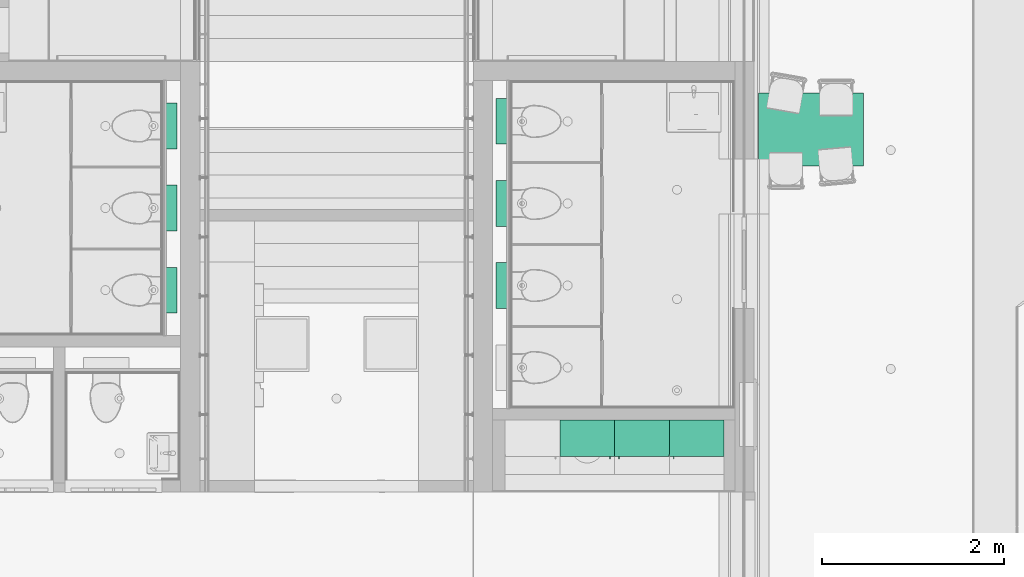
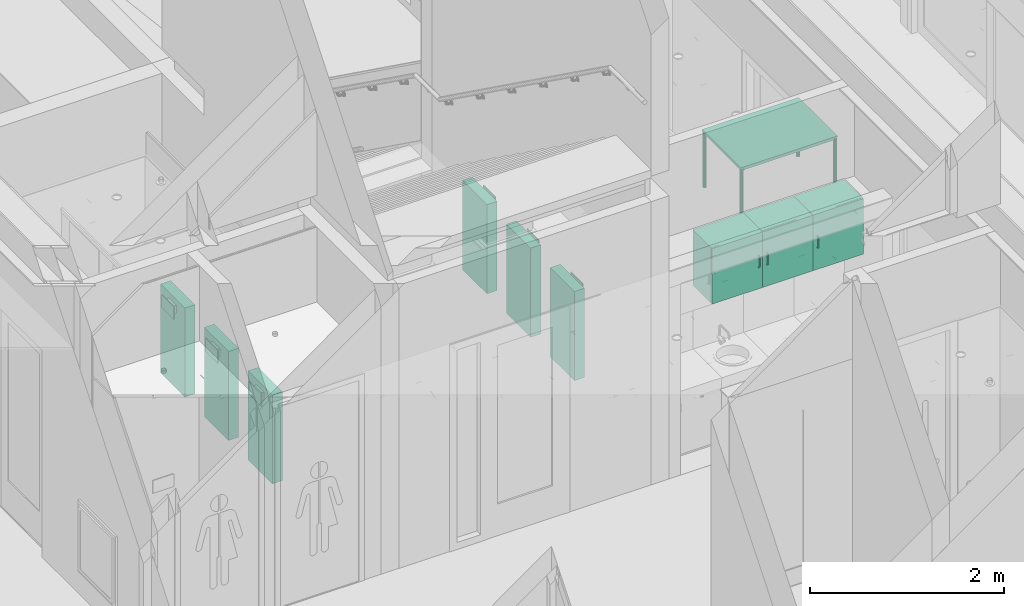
# One storey, part 180 of 347: 6 flow terminals, 4 distribution elements.
"""IFC2X3 building model written with IfcOpenShell, lengths in millimetres."""

from ifc_helpers import new_model, entity, si_unit, converted_unit, derived_unit, money_unit, direction, frame, origin_with_axes, place, context, subcontext, project, spatial, open_shell, faceted_brep, surface_model, source, transform, mapped, type_object, type_shapes, element, save


model = new_model("IFC2X3")

# Units and contexts
model_context = context("Model", 3, precision=0.01, world=origin_with_axes(), true_north=direction((0.0, 1.0)))
plan_context = context("Plan", 3, precision=0.01, world=origin_with_axes(), true_north=direction((0.0, 1.0)))
body_context = subcontext(model_context, "Body", "Model", "MODEL_VIEW")
ifc_project = project(units=[si_unit("LENGTHUNIT", "METRE", prefix="MILLI"), si_unit("AREAUNIT", "SQUARE_METRE"), si_unit("VOLUMEUNIT", "CUBIC_METRE"), converted_unit("PLANEANGLEUNIT", "DEGREE", entity("IfcPlaneAngleMeasure", 0.0174532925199), si_unit("PLANEANGLEUNIT", "RADIAN"), dimensions=[0, 0, 0, 0, 0, 0, 0]), money_unit("EUR"), converted_unit("TIMEUNIT", "Year", entity("IfcTimeMeasure", 31556926.0), si_unit("TIMEUNIT", "SECOND"), dimensions=[0, 0, 1, 0, 0, 0, 0]), si_unit("MASSUNIT", "GRAM", prefix="KILO"), si_unit("THERMODYNAMICTEMPERATUREUNIT", "DEGREE_CELSIUS"), si_unit("LUMINOUSINTENSITYUNIT", "LUMEN"), si_unit("ENERGYUNIT", "JOULE", prefix="MEGA"), derived_unit("THERMALCONDUCTANCEUNIT", [(si_unit("POWERUNIT", "WATT"), 1), (si_unit("LENGTHUNIT", "METRE"), -1), (si_unit("THERMODYNAMICTEMPERATUREUNIT", "KELVIN"), -1)]), derived_unit("SPECIFICHEATCAPACITYUNIT", [(si_unit("ENERGYUNIT", "JOULE"), 1), (si_unit("MASSUNIT", "GRAM", prefix="KILO"), -1), (si_unit("THERMODYNAMICTEMPERATUREUNIT", "KELVIN"), -1)]), derived_unit("MASSDENSITYUNIT", [(si_unit("MASSUNIT", "GRAM", prefix="KILO"), 1), (si_unit("VOLUMEUNIT", "CUBIC_METRE"), -1)])], contexts=[model_context, plan_context])

# Site, building, storey
site_placement = place(None, origin_with_axes())
site = spatial("IfcSite", under=ifc_project, at=site_placement, Name="Site", CompositionType="ELEMENT")
building_placement = place(site_placement, origin_with_axes())
building = spatial("IfcBuilding", under=site, at=building_placement, Name="Naam gebouw", CompositionType="ELEMENT")
storey_placement = place(building_placement, origin_with_axes())
storey = spatial("IfcBuildingStorey", under=building, at=storey_placement, Name="begane grond", CompositionType="ELEMENT", Elevation=0.0)

# Flow terminals
sanitary_terminal_type = type_object("IfcSanitaryTerminalType", Name="Inbouwreservoir 25 KM", PredefinedType="CISTERN")
shared_shape_1 = source(origin_with_axes(), body_context, "Body", "SurfaceModel", [
    faceted_brep([(0.0, 0.0, 0.0), (500.0, 0.0, 0.0), (500.0, 0.0, 1120.0), (0.0, 0.0, 1120.0), (0.0, 120.0, 0.0), (500.0, 120.0, 0.0), (500.0, 120.0, 1120.0), (0.0, 120.0, 1120.0)], [[[0, 1, 2, 3]], [[0, 4, 5, 1]], [[1, 5, 6, 2]], [[3, 2, 6, 7]], [[4, 0, 3, 7]], [[5, 4, 7, 6]]]),
    surface_model("IfcShellBasedSurfaceModel", [(1.0, 0.0, 0.0), (499.0, 0.0, 0.0), (499.0, 120.0, 1120.0), (1.0, 120.0, 1120.0)], [open_shell([[[0, 1, 2, 3]]])]),
    surface_model("IfcShellBasedSurfaceModel", [(1.0, 0.0, 1120.0), (499.0, 0.0, 1120.0), (499.0, 120.0, 0.0), (1.0, 120.0, 0.0)], [open_shell([[[0, 1, 2, 3]]])]),
    faceted_brep([(375.0, -60.0, 920.0), (125.0, -60.0, 920.0), (125.0, -50.0, 920.0), (375.0, -50.0, 920.0), (375.0, -60.0, 1080.0), (125.0, -60.0, 1080.0), (125.0, -50.0, 1080.0), (375.0, -50.0, 1080.0)], [[[0, 1, 2, 3]], [[1, 0, 4, 5]], [[2, 1, 5, 6]], [[3, 2, 6, 7]], [[0, 3, 7, 4]], [[5, 4, 7, 6]]]),
    faceted_brep([(325.0, 0.0, 950.0), (175.0, 0.0, 950.0), (175.0, 0.0, 1050.0), (325.0, 0.0, 1050.0), (325.0, -50.0, 950.0), (175.0, -50.0, 950.0), (175.0, -50.0, 1050.0), (325.0, -50.0, 1050.0)], [[[0, 1, 2, 3]], [[1, 0, 4, 5]], [[2, 1, 5, 6]], [[3, 2, 6, 7]], [[0, 3, 7, 4]], [[5, 4, 7, 6]]]),
    surface_model("IfcShellBasedSurfaceModel", [(175.0, -60.0, 920.0), (325.0, -60.0, 920.0), (325.0, -60.0, 955.0), (175.0, -60.0, 955.0)], [open_shell([[[0, 1, 2, 3]]])]),
    surface_model("IfcShellBasedSurfaceModel", [(175.0, -60.0, 955.0), (265.0, -60.0, 955.0), (265.0, -60.0, 1045.0), (175.0, -60.0, 1045.0)], [open_shell([[[0, 1, 2, 3]]])]),
    surface_model("IfcShellBasedSurfaceModel", [(265.0, -60.0, 955.0), (325.0, -60.0, 955.0), (325.0, -60.0, 1045.0), (265.0, -60.0, 1045.0)], [open_shell([[[0, 1, 2, 3]]])]),
])
for number, where, z_axis, x_axis, name in (
    (1, (38205.0, 32539.9999523, 0.0), (0.0, 0.0, 1.0), (0.0, -1.0, 0.0), "53_Sanitair-inbouw DuoFix"),
    (2, (38205.0, 34339.9999523, 0.0), (0.0, 0.0, 1.0), (0.0, -1.0, 0.0), "53_Sanitair-inbouw DuoFix"),
    (3, (38205.0, 33439.9998994, 0.0), (0.0, 0.0, 1.0), (0.0, -1.0, 0.0), "53_Sanitair-inbouw DuoFix"),
):
    element("IfcFlowTerminal", number, at=place(storey_placement, frame(where, z_axis=z_axis, x_axis=x_axis)), inside=storey, type_object=sanitary_terminal_type, Name=name, context=body_context, shape_type="MappedRepresentation", body=[
        mapped(shared_shape_1, transform((0.0, 0.0, 0.0))),
    ])
shared_shape_2 = source(origin_with_axes(), body_context, "Body", "SurfaceModel", [
    faceted_brep([(0.0, 0.0, 0.0), (0.0, 0.0, 1120.0), (-500.0, 0.0, 1120.0), (-500.0, 0.0, 0.0), (0.0, 120.0, 0.0), (0.0, 120.0, 1120.0), (-500.0, 120.0, 1120.0), (-500.0, 120.0, 0.0)], [[[0, 1, 2, 3]], [[4, 5, 1, 0]], [[1, 5, 6, 2]], [[3, 2, 6, 7]], [[0, 3, 7, 4]], [[7, 6, 5, 4]]]),
    surface_model("IfcShellBasedSurfaceModel", [(-1.0, 0.0, 0.0), (-1.0, 120.0, 1120.0), (-499.0, 120.0, 1120.0), (-499.0, 0.0, 0.0)], [open_shell([[[0, 1, 2, 3]]])]),
    surface_model("IfcShellBasedSurfaceModel", [(-1.0, 0.0, 1120.0), (-1.0, 120.0, 0.0), (-499.0, 120.0, 0.0), (-499.0, 0.0, 1120.0)], [open_shell([[[0, 1, 2, 3]]])]),
    faceted_brep([(-375.0, -60.0, 920.0), (-375.0, -50.0, 920.0), (-125.0, -50.0, 920.0), (-125.0, -60.0, 920.0), (-375.0, -60.0, 1080.0), (-375.0, -50.0, 1080.0), (-125.0, -50.0, 1080.0), (-125.0, -60.0, 1080.0)], [[[0, 1, 2, 3]], [[0, 4, 5, 1]], [[1, 5, 6, 2]], [[2, 6, 7, 3]], [[3, 7, 4, 0]], [[7, 6, 5, 4]]]),
    faceted_brep([(-325.0, 0.0, 950.0), (-325.0, 0.0, 1050.0), (-175.0, 0.0, 1050.0), (-175.0, 0.0, 950.0), (-325.0, -50.0, 950.0), (-325.0, -50.0, 1050.0), (-175.0, -50.0, 1050.0), (-175.0, -50.0, 950.0)], [[[0, 1, 2, 3]], [[0, 4, 5, 1]], [[1, 5, 6, 2]], [[2, 6, 7, 3]], [[3, 7, 4, 0]], [[7, 6, 5, 4]]]),
    surface_model("IfcShellBasedSurfaceModel", [(-175.0, -60.0, 920.0), (-175.0, -60.0, 955.0), (-325.0, -60.0, 955.0), (-325.0, -60.0, 920.0)], [open_shell([[[0, 1, 2, 3]]])]),
    surface_model("IfcShellBasedSurfaceModel", [(-175.0, -60.0, 955.0), (-175.0, -60.0, 1045.0), (-265.0, -60.0, 1045.0), (-265.0, -60.0, 955.0)], [open_shell([[[0, 1, 2, 3]]])]),
    surface_model("IfcShellBasedSurfaceModel", [(-265.0, -60.0, 955.0), (-265.0, -60.0, 1045.0), (-325.0, -60.0, 1045.0), (-325.0, -60.0, 955.0)], [open_shell([[[0, 1, 2, 3]]])]),
])
type_shapes(sanitary_terminal_type, [shared_shape_1, shared_shape_2])
for number, where, z_axis, x_axis, name in (
    (4, (41945.000006, 32589.9999523, 0.0), (0.0, 0.0, 1.0), (0.0, 1.0, 0.0), "53_Sanitair-inbouw DuoFix"),
    (5, (41945.000006, 34389.9999523, 0.0), (0.0, 0.0, 1.0), (0.0, 1.0, 0.0), "53_Sanitair-inbouw DuoFix"),
    (6, (41945.000006, 33489.9998994, 0.0), (0.0, 0.0, 1.0), (0.0, 1.0, 0.0), "53_Sanitair-inbouw DuoFix"),
):
    element("IfcFlowTerminal", number, at=place(storey_placement, frame(where, z_axis=z_axis, x_axis=x_axis)), inside=storey, type_object=sanitary_terminal_type, Name=name, context=body_context, shape_type="MappedRepresentation", body=[
        mapped(shared_shape_2, transform((0.0, 0.0, 0.0))),
    ])

# Distribution elements
distribution_element_type_1 = type_object("IfcDistributionElementType", Name="Bovenkast recht 25")
shared_shape_3 = source(origin_with_axes(), body_context, "Body", "Brep", [
    faceted_brep([(-18.0, -380.0, 1841.0), (-18.0, -380.0, 1859.0), (-582.0, -380.0, 1859.0), (-582.0, -380.0, 1841.0), (-18.0, -18.0, 1841.0), (-18.0, -18.0, 1859.0), (-582.0, -18.0, 1859.0), (-582.0, -18.0, 1841.0)], [[[0, 1, 2, 3]], [[4, 5, 1, 0]], [[1, 5, 6, 2]], [[3, 2, 6, 7]], [[0, 3, 7, 4]], [[7, 6, 5, 4]]]),
    faceted_brep([(-546.0, -398.0, 1776.0), (-556.0, -398.0, 1776.0), (-556.0, -398.0, 1786.0), (-546.0, -398.0, 1786.0), (-546.0, -408.0, 1776.0), (-556.0, -408.0, 1776.0), (-556.0, -411.472963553, 1776.30384494), (-556.0, -414.840402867, 1777.20614758), (-556.0, -418.0, 1778.67949192), (-556.0, -420.855752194, 1780.67911114), (-556.0, -423.320888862, 1783.14424781), (-556.0, -425.320508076, 1786.0), (-556.0, -426.793852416, 1789.15959713), (-556.0, -427.69615506, 1792.52703645), (-556.0, -428.0, 1796.0), (-556.0, -428.0, 1906.0), (-556.0, -427.69615506, 1909.47296355), (-556.0, -426.793852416, 1912.84040287), (-556.0, -425.320508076, 1916.0), (-556.0, -423.320888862, 1918.85575219), (-556.0, -420.855752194, 1921.32088886), (-556.0, -418.0, 1923.32050808), (-556.0, -414.840402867, 1924.79385242), (-556.0, -411.472963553, 1925.69615506), (-556.0, -408.0, 1926.0), (-556.0, -398.0, 1926.0), (-556.0, -398.0, 1916.0), (-556.0, -408.0, 1916.0), (-556.0, -409.736481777, 1915.84807753), (-556.0, -411.420201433, 1915.39692621), (-556.0, -413.0, 1914.66025404), (-556.0, -414.427876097, 1913.66044443), (-556.0, -415.660444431, 1912.4278761), (-556.0, -416.660254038, 1911.0), (-556.0, -417.396926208, 1909.42020143), (-556.0, -417.84807753, 1907.73648178), (-556.0, -418.0, 1906.0), (-556.0, -418.0, 1796.0), (-556.0, -417.84807753, 1794.26351822), (-556.0, -417.396926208, 1792.57979857), (-556.0, -416.660254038, 1791.0), (-556.0, -415.660444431, 1789.5721239), (-556.0, -414.427876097, 1788.33955557), (-556.0, -413.0, 1787.33974596), (-556.0, -411.420201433, 1786.60307379), (-556.0, -409.736481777, 1786.15192247), (-556.0, -408.0, 1786.0), (-546.0, -408.0, 1786.0), (-546.0, -409.736481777, 1786.15192247), (-546.0, -411.420201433, 1786.60307379), (-546.0, -413.0, 1787.33974596), (-546.0, -414.427876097, 1788.33955557), (-546.0, -415.660444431, 1789.5721239), (-546.0, -416.660254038, 1791.0), (-546.0, -417.396926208, 1792.57979857), (-546.0, -417.84807753, 1794.26351822), (-546.0, -418.0, 1796.0), (-546.0, -418.0, 1906.0), (-546.0, -417.84807753, 1907.73648178), (-546.0, -417.396926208, 1909.42020143), (-546.0, -416.660254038, 1911.0), (-546.0, -415.660444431, 1912.4278761), (-546.0, -414.427876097, 1913.66044443), (-546.0, -413.0, 1914.66025404), (-546.0, -411.420201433, 1915.39692621), (-546.0, -409.736481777, 1915.84807753), (-546.0, -408.0, 1916.0), (-546.0, -398.0, 1916.0), (-546.0, -398.0, 1926.0), (-546.0, -408.0, 1926.0), (-546.0, -411.472963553, 1925.69615506), (-546.0, -414.840402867, 1924.79385242), (-546.0, -418.0, 1923.32050808), (-546.0, -420.855752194, 1921.32088886), (-546.0, -423.320888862, 1918.85575219), (-546.0, -425.320508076, 1916.0), (-546.0, -426.793852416, 1912.84040287), (-546.0, -427.69615506, 1909.47296355), (-546.0, -428.0, 1906.0), (-546.0, -428.0, 1796.0), (-546.0, -427.69615506, 1792.52703645), (-546.0, -426.793852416, 1789.15959713), (-546.0, -425.320508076, 1786.0), (-546.0, -423.320888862, 1783.14424781), (-546.0, -420.855752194, 1780.67911114), (-546.0, -418.0, 1778.67949192), (-546.0, -414.840402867, 1777.20614758), (-546.0, -411.472963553, 1776.30384494)], [[[0, 1, 2, 3]], [[4, 5, 1, 0]], [[1, 5, 6, 7, 8, 9, 10, 11, 12, 13, 14, 15, 16, 17, 18, 19, 20, 21, 22, 23, 24, 25, 26, 27, 28, 29, 30, 31, 32, 33, 34, 35, 36, 37, 38, 39, 40, 41, 42, 43, 44, 45, 46, 2]], [[3, 2, 46, 47]], [[0, 3, 47, 48, 49, 50, 51, 52, 53, 54, 55, 56, 57, 58, 59, 60, 61, 62, 63, 64, 65, 66, 67, 68, 69, 70, 71, 72, 73, 74, 75, 76, 77, 78, 79, 80, 81, 82, 83, 84, 85, 86, 87, 4]], [[87, 6, 5, 4]], [[86, 7, 6, 87]], [[85, 8, 7, 86]], [[84, 9, 8, 85]], [[83, 10, 9, 84]], [[82, 11, 10, 83]], [[81, 12, 11, 82]], [[80, 13, 12, 81]], [[79, 14, 13, 80]], [[78, 15, 14, 79]], [[77, 16, 15, 78]], [[76, 17, 16, 77]], [[75, 18, 17, 76]], [[74, 19, 18, 75]], [[73, 20, 19, 74]], [[72, 21, 20, 73]], [[71, 22, 21, 72]], [[70, 23, 22, 71]], [[69, 24, 23, 70]], [[68, 25, 24, 69]], [[67, 26, 25, 68]], [[66, 27, 26, 67]], [[65, 28, 27, 66]], [[64, 29, 28, 65]], [[63, 30, 29, 64]], [[62, 31, 30, 63]], [[61, 32, 31, 62]], [[60, 33, 32, 61]], [[59, 34, 33, 60]], [[58, 35, 34, 59]], [[57, 36, 35, 58]], [[56, 37, 36, 57]], [[55, 38, 37, 56]], [[54, 39, 38, 55]], [[53, 40, 39, 54]], [[52, 41, 40, 53]], [[51, 42, 41, 52]], [[50, 43, 42, 51]], [[49, 44, 43, 50]], [[48, 45, 44, 49]], [[47, 46, 45, 48]]]),
    faceted_brep([(-1.0, -380.0, 1501.0), (-1.0, -398.0, 1501.0), (-599.0, -398.0, 1501.0), (-599.0, -380.0, 1501.0), (-1.0, -380.0, 2199.0), (-1.0, -398.0, 2199.0), (-599.0, -398.0, 2199.0), (-599.0, -380.0, 2199.0)], [[[0, 1, 2, 3]], [[4, 5, 1, 0]], [[1, 5, 6, 2]], [[3, 2, 6, 7]], [[0, 3, 7, 4]], [[7, 6, 5, 4]]]),
    faceted_brep([(-18.0, -380.0, 1500.0), (-18.0, -380.0, 1518.0), (-582.0, -380.0, 1518.0), (-582.0, -380.0, 1500.0), (-18.0, 0.0, 1500.0), (-18.0, 0.0, 1518.0), (-582.0, 0.0, 1518.0), (-582.0, 0.0, 1500.0)], [[[0, 1, 2, 3]], [[4, 5, 1, 0]], [[1, 5, 6, 2]], [[3, 2, 6, 7]], [[0, 3, 7, 4]], [[7, 6, 5, 4]]]),
    faceted_brep([(-18.0, -380.0, 2182.0), (-18.0, -380.0, 2200.0), (-582.0, -380.0, 2200.0), (-582.0, -380.0, 2182.0), (-18.0, 0.0, 2182.0), (-18.0, 0.0, 2200.0), (-582.0, 0.0, 2200.0), (-582.0, 0.0, 2182.0)], [[[0, 1, 2, 3]], [[4, 5, 1, 0]], [[1, 5, 6, 2]], [[3, 2, 6, 7]], [[0, 3, 7, 4]], [[7, 6, 5, 4]]]),
    faceted_brep([(0.0, 0.0, 1500.0), (0.0, 0.0, 2200.0), (0.0, -380.0, 2200.0), (0.0, -380.0, 1500.0), (-18.0, 0.0, 1500.0), (-18.0, 0.0, 2200.0), (-18.0, -380.0, 2200.0), (-18.0, -380.0, 1500.0)], [[[0, 1, 2, 3]], [[4, 5, 1, 0]], [[1, 5, 6, 2]], [[3, 2, 6, 7]], [[0, 3, 7, 4]], [[7, 6, 5, 4]]]),
    faceted_brep([(-600.0, -380.0, 1500.0), (-600.0, -380.0, 2200.0), (-600.0, 0.0, 2200.0), (-600.0, 0.0, 1500.0), (-582.0, -380.0, 1500.0), (-582.0, -380.0, 2200.0), (-582.0, 0.0, 2200.0), (-582.0, 0.0, 1500.0)], [[[0, 1, 2, 3]], [[4, 5, 1, 0]], [[1, 5, 6, 2]], [[3, 2, 6, 7]], [[0, 3, 7, 4]], [[7, 6, 5, 4]]]),
    faceted_brep([(-582.0, -9.0, 1518.0), (-582.0, -9.0, 2182.0), (-18.0, -9.0, 2182.0), (-18.0, -9.0, 1518.0), (-582.0, -18.0, 1518.0), (-582.0, -18.0, 2182.0), (-18.0, -18.0, 2182.0), (-18.0, -18.0, 1518.0)], [[[0, 1, 2, 3]], [[4, 5, 1, 0]], [[1, 5, 6, 2]], [[3, 2, 6, 7]], [[0, 3, 7, 4]], [[7, 6, 5, 4]]]),
])
for number, where, z_axis, x_axis, name in (
    (7, (44325.0, 30864.9999277, 200.0), (0.0, 0.0, 1.0), (1.0, 0.0, 0.0), "65 Beveiliging_73 pantryblok"),
    (8, (43725.0, 30864.9999277, 200.0), (0.0, 0.0, 1.0), (1.0, 0.0, 0.0), "65 Beveiliging_73 pantryblok"),
):
    element("IfcDistributionElement", number, at=place(storey_placement, frame(where, z_axis=z_axis, x_axis=x_axis)), inside=storey, type_object=distribution_element_type_1, Name=name, context=body_context, shape_type="MappedRepresentation", body=[
        mapped(shared_shape_3, transform((0.0, 0.0, 0.0))),
    ])
distribution_element_type_2 = type_object("IfcDistributionElementType", Name="Tafel rechthoekig 01 25")
shared_shape_4 = source(origin_with_axes(), body_context, "Body", "Brep", [
    faceted_brep([(-37.3205080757, 10.0, 0.0), (-40.0, 20.0, 0.0), (-37.3205080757, 30.0, 0.0), (-30.0, 37.3205080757, 0.0), (-20.0, 40.0, 0.0), (-10.0, 37.3205080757, 0.0), (-2.67949192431, 30.0, 0.0), (0.0, 20.0, 0.0), (-2.67949192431, 10.0, 0.0), (-10.0, 2.67949192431, 0.0), (-20.0, 0.0, 0.0), (-30.0, 2.67949192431, 0.0), (-37.3205080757, 10.0, 700.0), (-40.0, 20.0, 700.0), (-37.3205080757, 30.0, 700.0), (-30.0, 37.3205080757, 700.0), (-20.0, 40.0, 700.0), (-10.0, 37.3205080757, 700.0), (-2.67949192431, 30.0, 700.0), (0.0, 20.0, 700.0), (-2.67949192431, 10.0, 700.0), (-10.0, 2.67949192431, 700.0), (-20.0, 0.0, 700.0), (-30.0, 2.67949192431, 700.0)], [[[0, 1, 2, 3, 4, 5, 6, 7, 8, 9, 10, 11]], [[0, 12, 13, 1]], [[1, 13, 14, 2]], [[2, 14, 15, 3]], [[3, 15, 16, 4]], [[4, 16, 17, 5]], [[5, 17, 18, 6]], [[6, 18, 19, 7]], [[7, 19, 20, 8]], [[8, 20, 21, 9]], [[9, 21, 22, 10]], [[10, 22, 23, 11]], [[11, 23, 12, 0]], [[12, 23, 22, 21, 20, 19, 18, 17, 16, 15, 14, 13]]]),
    faceted_brep([(-1147.32050808, 10.0, 0.0), (-1150.0, 20.0, 0.0), (-1147.32050808, 30.0, 0.0), (-1140.0, 37.3205080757, 0.0), (-1130.0, 40.0, 0.0), (-1120.0, 37.3205080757, 0.0), (-1112.67949192, 30.0, 0.0), (-1110.0, 20.0, 0.0), (-1112.67949192, 10.0, 0.0), (-1120.0, 2.67949192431, 0.0), (-1130.0, 0.0, 0.0), (-1140.0, 2.67949192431, 0.0), (-1147.32050808, 10.0, 700.0), (-1150.0, 20.0, 700.0), (-1147.32050808, 30.0, 700.0), (-1140.0, 37.3205080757, 700.0), (-1130.0, 40.0, 700.0), (-1120.0, 37.3205080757, 700.0), (-1112.67949192, 30.0, 700.0), (-1110.0, 20.0, 700.0), (-1112.67949192, 10.0, 700.0), (-1120.0, 2.67949192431, 700.0), (-1130.0, 0.0, 700.0), (-1140.0, 2.67949192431, 700.0)], [[[0, 1, 2, 3, 4, 5, 6, 7, 8, 9, 10, 11]], [[0, 12, 13, 1]], [[1, 13, 14, 2]], [[2, 14, 15, 3]], [[3, 15, 16, 4]], [[4, 16, 17, 5]], [[5, 17, 18, 6]], [[6, 18, 19, 7]], [[7, 19, 20, 8]], [[8, 20, 21, 9]], [[9, 21, 22, 10]], [[10, 22, 23, 11]], [[11, 23, 12, 0]], [[12, 23, 22, 21, 20, 19, 18, 17, 16, 15, 14, 13]]]),
    faceted_brep([(-37.3205080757, 770.0, 0.0), (-40.0, 780.0, 0.0), (-37.3205080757, 790.0, 0.0), (-30.0, 797.320508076, 0.0), (-20.0, 800.0, 0.0), (-10.0, 797.320508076, 0.0), (-2.67949192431, 790.0, 0.0), (0.0, 780.0, 0.0), (-2.67949192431, 770.0, 0.0), (-10.0, 762.679491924, 0.0), (-20.0, 760.0, 0.0), (-30.0, 762.679491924, 0.0), (-37.3205080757, 770.0, 700.0), (-40.0, 780.0, 700.0), (-37.3205080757, 790.0, 700.0), (-30.0, 797.320508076, 700.0), (-20.0, 800.0, 700.0), (-10.0, 797.320508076, 700.0), (-2.67949192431, 790.0, 700.0), (0.0, 780.0, 700.0), (-2.67949192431, 770.0, 700.0), (-10.0, 762.679491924, 700.0), (-20.0, 760.0, 700.0), (-30.0, 762.679491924, 700.0)], [[[0, 1, 2, 3, 4, 5, 6, 7, 8, 9, 10, 11]], [[0, 12, 13, 1]], [[1, 13, 14, 2]], [[2, 14, 15, 3]], [[3, 15, 16, 4]], [[4, 16, 17, 5]], [[5, 17, 18, 6]], [[6, 18, 19, 7]], [[7, 19, 20, 8]], [[8, 20, 21, 9]], [[9, 21, 22, 10]], [[10, 22, 23, 11]], [[11, 23, 12, 0]], [[12, 23, 22, 21, 20, 19, 18, 17, 16, 15, 14, 13]]]),
    faceted_brep([(-1147.32050808, 770.0, 0.0), (-1150.0, 780.0, 0.0), (-1147.32050808, 790.0, 0.0), (-1140.0, 797.320508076, 0.0), (-1130.0, 800.0, 0.0), (-1120.0, 797.320508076, 0.0), (-1112.67949192, 790.0, 0.0), (-1110.0, 780.0, 0.0), (-1112.67949192, 770.0, 0.0), (-1120.0, 762.679491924, 0.0), (-1130.0, 760.0, 0.0), (-1140.0, 762.679491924, 0.0), (-1147.32050808, 770.0, 700.0), (-1150.0, 780.0, 700.0), (-1147.32050808, 790.0, 700.0), (-1140.0, 797.320508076, 700.0), (-1130.0, 800.0, 700.0), (-1120.0, 797.320508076, 700.0), (-1112.67949192, 790.0, 700.0), (-1110.0, 780.0, 700.0), (-1112.67949192, 770.0, 700.0), (-1120.0, 762.679491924, 700.0), (-1130.0, 760.0, 700.0), (-1140.0, 762.679491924, 700.0)], [[[0, 1, 2, 3, 4, 5, 6, 7, 8, 9, 10, 11]], [[0, 12, 13, 1]], [[1, 13, 14, 2]], [[2, 14, 15, 3]], [[3, 15, 16, 4]], [[4, 16, 17, 5]], [[5, 17, 18, 6]], [[6, 18, 19, 7]], [[7, 19, 20, 8]], [[8, 20, 21, 9]], [[9, 21, 22, 10]], [[10, 22, 23, 11]], [[11, 23, 12, 0]], [[12, 23, 22, 21, 20, 19, 18, 17, 16, 15, 14, 13]]]),
    faceted_brep([(-1150.0, 0.0, 700.0), (-1150.0, 800.0, 700.0), (0.0, 800.0, 700.0), (0.0, 0.0, 700.0), (-1150.0, 0.0, 720.0), (-1150.0, 800.0, 720.0), (0.0, 800.0, 720.0), (0.0, 0.0, 720.0)], [[[0, 1, 2, 3]], [[0, 4, 5, 1]], [[1, 5, 6, 2]], [[2, 6, 7, 3]], [[3, 7, 4, 0]], [[7, 6, 5, 4]]]),
    faceted_brep([(-1110.0, 10.0, 675.0), (-1110.0, 30.0, 675.0), (-40.0, 30.0, 675.0), (-40.0, 10.0, 675.0), (-1110.0, 10.0, 700.0), (-1110.0, 30.0, 700.0), (-40.0, 30.0, 700.0), (-40.0, 10.0, 700.0)], [[[0, 1, 2, 3]], [[0, 4, 5, 1]], [[1, 5, 6, 2]], [[2, 6, 7, 3]], [[3, 7, 4, 0]], [[7, 6, 5, 4]]]),
    faceted_brep([(-30.0, 40.0, 675.0), (-30.0, 760.0, 675.0), (-10.0, 760.0, 675.0), (-10.0, 40.0, 675.0), (-30.0, 40.0, 700.0), (-30.0, 760.0, 700.0), (-10.0, 760.0, 700.0), (-10.0, 40.0, 700.0)], [[[0, 1, 2, 3]], [[0, 4, 5, 1]], [[1, 5, 6, 2]], [[2, 6, 7, 3]], [[3, 7, 4, 0]], [[7, 6, 5, 4]]]),
    faceted_brep([(-40.0, 790.0, 675.0), (-40.0, 770.0, 675.0), (-1110.0, 770.0, 675.0), (-1110.0, 790.0, 675.0), (-40.0, 790.0, 700.0), (-40.0, 770.0, 700.0), (-1110.0, 770.0, 700.0), (-1110.0, 790.0, 700.0)], [[[0, 1, 2, 3]], [[0, 4, 5, 1]], [[1, 5, 6, 2]], [[2, 6, 7, 3]], [[3, 7, 4, 0]], [[7, 6, 5, 4]]]),
    faceted_brep([(-1120.0, 760.0, 675.0), (-1120.0, 40.0, 675.0), (-1140.0, 40.0, 675.0), (-1140.0, 760.0, 675.0), (-1120.0, 760.0, 700.0), (-1120.0, 40.0, 700.0), (-1140.0, 40.0, 700.0), (-1140.0, 760.0, 700.0)], [[[0, 1, 2, 3]], [[0, 4, 5, 1]], [[1, 5, 6, 2]], [[2, 6, 7, 3]], [[3, 7, 4, 0]], [[7, 6, 5, 4]]]),
])
type_shapes(distribution_element_type_2, [shared_shape_4])
distribution_element_1_placement = place(storey_placement, frame((44705.0, 34450.0, 0.0), z_axis=(0.0, 0.0, 1.0), x_axis=(-1.0, 0.0, 0.0)))
element("IfcDistributionElement", 9, at=distribution_element_1_placement, inside=storey, type_object=distribution_element_type_2, Name="65 Beveiliging_73 pantryblok", context=body_context, shape_type="MappedRepresentation", body=[
    mapped(shared_shape_4, transform((0.0, 0.0, 0.0))),
])
shared_shape_5 = source(origin_with_axes(), body_context, "Body", "Brep", [
    faceted_brep([(18.0, -380.0, 1841.0), (582.0, -380.0, 1841.0), (582.0, -380.0, 1859.0), (18.0, -380.0, 1859.0), (18.0, -18.0, 1841.0), (582.0, -18.0, 1841.0), (582.0, -18.0, 1859.0), (18.0, -18.0, 1859.0)], [[[0, 1, 2, 3]], [[0, 4, 5, 1]], [[1, 5, 6, 2]], [[3, 2, 6, 7]], [[4, 0, 3, 7]], [[5, 4, 7, 6]]]),
    faceted_brep([(546.0, -398.0, 1776.0), (546.0, -398.0, 1786.0), (556.0, -398.0, 1786.0), (556.0, -398.0, 1776.0), (546.0, -408.0, 1776.0), (546.0, -411.472963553, 1776.30384494), (546.0, -414.840402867, 1777.20614758), (546.0, -418.0, 1778.67949192), (546.0, -420.855752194, 1780.67911114), (546.0, -423.320888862, 1783.14424781), (546.0, -425.320508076, 1786.0), (546.0, -426.793852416, 1789.15959713), (546.0, -427.69615506, 1792.52703645), (546.0, -428.0, 1796.0), (546.0, -428.0, 1906.0), (546.0, -427.69615506, 1909.47296355), (546.0, -426.793852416, 1912.84040287), (546.0, -425.320508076, 1916.0), (546.0, -423.320888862, 1918.85575219), (546.0, -420.855752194, 1921.32088886), (546.0, -418.0, 1923.32050808), (546.0, -414.840402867, 1924.79385242), (546.0, -411.472963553, 1925.69615506), (546.0, -408.0, 1926.0), (546.0, -398.0, 1926.0), (546.0, -398.0, 1916.0), (546.0, -408.0, 1916.0), (546.0, -409.736481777, 1915.84807753), (546.0, -411.420201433, 1915.39692621), (546.0, -413.0, 1914.66025404), (546.0, -414.427876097, 1913.66044443), (546.0, -415.660444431, 1912.4278761), (546.0, -416.660254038, 1911.0), (546.0, -417.396926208, 1909.42020143), (546.0, -417.84807753, 1907.73648178), (546.0, -418.0, 1906.0), (546.0, -418.0, 1796.0), (546.0, -417.84807753, 1794.26351822), (546.0, -417.396926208, 1792.57979857), (546.0, -416.660254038, 1791.0), (546.0, -415.660444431, 1789.5721239), (546.0, -414.427876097, 1788.33955557), (546.0, -413.0, 1787.33974596), (546.0, -411.420201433, 1786.60307379), (546.0, -409.736481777, 1786.15192247), (546.0, -408.0, 1786.0), (556.0, -408.0, 1786.0), (556.0, -409.736481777, 1786.15192247), (556.0, -411.420201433, 1786.60307379), (556.0, -413.0, 1787.33974596), (556.0, -414.427876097, 1788.33955557), (556.0, -415.660444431, 1789.5721239), (556.0, -416.660254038, 1791.0), (556.0, -417.396926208, 1792.57979857), (556.0, -417.84807753, 1794.26351822), (556.0, -418.0, 1796.0), (556.0, -418.0, 1906.0), (556.0, -417.84807753, 1907.73648178), (556.0, -417.396926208, 1909.42020143), (556.0, -416.660254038, 1911.0), (556.0, -415.660444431, 1912.4278761), (556.0, -414.427876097, 1913.66044443), (556.0, -413.0, 1914.66025404), (556.0, -411.420201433, 1915.39692621), (556.0, -409.736481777, 1915.84807753), (556.0, -408.0, 1916.0), (556.0, -398.0, 1916.0), (556.0, -398.0, 1926.0), (556.0, -408.0, 1926.0), (556.0, -411.472963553, 1925.69615506), (556.0, -414.840402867, 1924.79385242), (556.0, -418.0, 1923.32050808), (556.0, -420.855752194, 1921.32088886), (556.0, -423.320888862, 1918.85575219), (556.0, -425.320508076, 1916.0), (556.0, -426.793852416, 1912.84040287), (556.0, -427.69615506, 1909.47296355), (556.0, -428.0, 1906.0), (556.0, -428.0, 1796.0), (556.0, -427.69615506, 1792.52703645), (556.0, -426.793852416, 1789.15959713), (556.0, -425.320508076, 1786.0), (556.0, -423.320888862, 1783.14424781), (556.0, -420.855752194, 1780.67911114), (556.0, -418.0, 1778.67949192), (556.0, -414.840402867, 1777.20614758), (556.0, -411.472963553, 1776.30384494), (556.0, -408.0, 1776.0)], [[[0, 1, 2, 3]], [[0, 4, 5, 6, 7, 8, 9, 10, 11, 12, 13, 14, 15, 16, 17, 18, 19, 20, 21, 22, 23, 24, 25, 26, 27, 28, 29, 30, 31, 32, 33, 34, 35, 36, 37, 38, 39, 40, 41, 42, 43, 44, 45, 1]], [[1, 45, 46, 2]], [[3, 2, 46, 47, 48, 49, 50, 51, 52, 53, 54, 55, 56, 57, 58, 59, 60, 61, 62, 63, 64, 65, 66, 67, 68, 69, 70, 71, 72, 73, 74, 75, 76, 77, 78, 79, 80, 81, 82, 83, 84, 85, 86, 87]], [[4, 0, 3, 87]], [[5, 4, 87, 86]], [[6, 5, 86, 85]], [[7, 6, 85, 84]], [[8, 7, 84, 83]], [[9, 8, 83, 82]], [[10, 9, 82, 81]], [[11, 10, 81, 80]], [[12, 11, 80, 79]], [[13, 12, 79, 78]], [[14, 13, 78, 77]], [[15, 14, 77, 76]], [[16, 15, 76, 75]], [[17, 16, 75, 74]], [[18, 17, 74, 73]], [[19, 18, 73, 72]], [[20, 19, 72, 71]], [[21, 20, 71, 70]], [[22, 21, 70, 69]], [[23, 22, 69, 68]], [[24, 23, 68, 67]], [[25, 24, 67, 66]], [[26, 25, 66, 65]], [[27, 26, 65, 64]], [[28, 27, 64, 63]], [[29, 28, 63, 62]], [[30, 29, 62, 61]], [[31, 30, 61, 60]], [[32, 31, 60, 59]], [[33, 32, 59, 58]], [[34, 33, 58, 57]], [[35, 34, 57, 56]], [[36, 35, 56, 55]], [[37, 36, 55, 54]], [[38, 37, 54, 53]], [[39, 38, 53, 52]], [[40, 39, 52, 51]], [[41, 40, 51, 50]], [[42, 41, 50, 49]], [[43, 42, 49, 48]], [[44, 43, 48, 47]], [[45, 44, 47, 46]]]),
    faceted_brep([(1.0, -380.0, 1501.0), (599.0, -380.0, 1501.0), (599.0, -398.0, 1501.0), (1.0, -398.0, 1501.0), (1.0, -380.0, 2199.0), (599.0, -380.0, 2199.0), (599.0, -398.0, 2199.0), (1.0, -398.0, 2199.0)], [[[0, 1, 2, 3]], [[0, 4, 5, 1]], [[1, 5, 6, 2]], [[3, 2, 6, 7]], [[4, 0, 3, 7]], [[5, 4, 7, 6]]]),
    faceted_brep([(18.0, -380.0, 1500.0), (582.0, -380.0, 1500.0), (582.0, -380.0, 1518.0), (18.0, -380.0, 1518.0), (18.0, 0.0, 1500.0), (582.0, 0.0, 1500.0), (582.0, 0.0, 1518.0), (18.0, 0.0, 1518.0)], [[[0, 1, 2, 3]], [[0, 4, 5, 1]], [[1, 5, 6, 2]], [[3, 2, 6, 7]], [[4, 0, 3, 7]], [[5, 4, 7, 6]]]),
    faceted_brep([(18.0, -380.0, 2182.0), (582.0, -380.0, 2182.0), (582.0, -380.0, 2200.0), (18.0, -380.0, 2200.0), (18.0, 0.0, 2182.0), (582.0, 0.0, 2182.0), (582.0, 0.0, 2200.0), (18.0, 0.0, 2200.0)], [[[0, 1, 2, 3]], [[0, 4, 5, 1]], [[1, 5, 6, 2]], [[3, 2, 6, 7]], [[4, 0, 3, 7]], [[5, 4, 7, 6]]]),
    faceted_brep([(0.0, 0.0, 1500.0), (0.0, -380.0, 1500.0), (0.0, -380.0, 2200.0), (0.0, 0.0, 2200.0), (18.0, 0.0, 1500.0), (18.0, -380.0, 1500.0), (18.0, -380.0, 2200.0), (18.0, 0.0, 2200.0)], [[[0, 1, 2, 3]], [[0, 4, 5, 1]], [[1, 5, 6, 2]], [[3, 2, 6, 7]], [[4, 0, 3, 7]], [[5, 4, 7, 6]]]),
    faceted_brep([(600.0, -380.0, 1500.0), (600.0, 0.0, 1500.0), (600.0, 0.0, 2200.0), (600.0, -380.0, 2200.0), (582.0, -380.0, 1500.0), (582.0, 0.0, 1500.0), (582.0, 0.0, 2200.0), (582.0, -380.0, 2200.0)], [[[0, 1, 2, 3]], [[0, 4, 5, 1]], [[1, 5, 6, 2]], [[3, 2, 6, 7]], [[4, 0, 3, 7]], [[5, 4, 7, 6]]]),
    faceted_brep([(582.0, -9.0, 1518.0), (18.0, -9.0, 1518.0), (18.0, -9.0, 2182.0), (582.0, -9.0, 2182.0), (582.0, -18.0, 1518.0), (18.0, -18.0, 1518.0), (18.0, -18.0, 2182.0), (582.0, -18.0, 2182.0)], [[[0, 1, 2, 3]], [[0, 4, 5, 1]], [[1, 5, 6, 2]], [[3, 2, 6, 7]], [[4, 0, 3, 7]], [[5, 4, 7, 6]]]),
])
type_shapes(distribution_element_type_1, [shared_shape_3, shared_shape_5])
distribution_element_2_placement = place(storey_placement, frame((42525.0, 30864.9999277, 200.0), z_axis=(0.0, 0.0, 1.0), x_axis=(1.0, 0.0, 0.0)))
element("IfcDistributionElement", 10, at=distribution_element_2_placement, inside=storey, type_object=distribution_element_type_1, Name="65 Beveiliging_73 pantryblok", context=body_context, shape_type="MappedRepresentation", body=[
    mapped(shared_shape_5, transform((0.0, 0.0, 0.0))),
])

save(model, "model.ifc")
